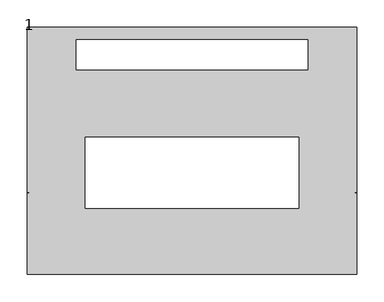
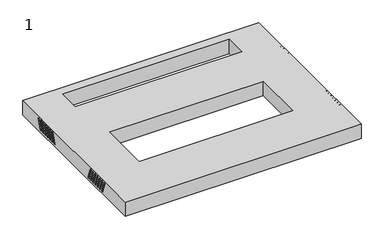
"""IFC4 building model written with IfcOpenShell, lengths in millimetres: proxy geometry, 1."""

from ifc_helpers import new_model, si_unit, frame, origin, place, context, project, spatial, polyline, circle_curve, source, transform, mapped, element, save
from ifc_brep_helpers import plane_surface, revolved_surface, advanced_brep


def proxy_1_dae487cf(model_context):
    return source(origin(), model_context, "Body", "AdvancedBrep", [
        advanced_brep(
        [(298.0, -135.8, 345.7479679), (298.0, -126.9074763, 321.3159597), (298.0, -123.1487058, 322.6840403), (298.0, -132.0412295, 347.1160484), (298.0, -125.8, 345.7479679), (298.0, -116.9074763, 321.3159597), (298.0, -113.1487058, 322.6840403), (298.0, -122.0412295, 347.1160484), (298.0, -115.8, 345.7479679), (298.0, -106.9074763, 321.3159597), (298.0, -103.1487058, 322.6840403), (298.0, -112.0412295, 347.1160484), (298.0, -105.8, 345.7479679), (298.0, -96.9074763, 321.3159597), (298.0, -93.1487058, 322.6840403), (298.0, -102.0412295, 347.1160484), (298.0, -95.8, 345.7479679), (298.0, -86.9074763, 321.3159597), (298.0, -83.1487058, 322.6840403), (298.0, -92.0412295, 347.1160484), (298.0, -85.8, 345.7479679), (298.0, -76.9074763, 321.3159597), (298.0, -73.1487058, 322.6840403), (298.0, -82.0412295, 347.1160484), (298.0, -75.8, 345.7479679), (298.0, -66.9074763, 321.3159597), (298.0, -63.1487058, 322.6840403), (298.0, -72.0412295, 347.1160484), (300.0, -132.0412295, 347.1160484), (300.0, -135.8, 345.7479679), (300.0, -123.1487058, 322.6840403), (300.0, -126.9074763, 321.3159597), (300.0, -122.0412295, 347.1160484), (300.0, -125.8, 345.7479679), (300.0, -113.1487058, 322.6840403), (300.0, -116.9074763, 321.3159597), (300.0, -112.0412295, 347.1160484), (300.0, -115.8, 345.7479679), (300.0, -103.1487058, 322.6840403), (300.0, -106.9074763, 321.3159597), (300.0, -102.0412295, 347.1160484), (300.0, -105.8, 345.7479679), (300.0, -93.1487058, 322.6840403), (300.0, -96.9074763, 321.3159597), (300.0, -92.0412295, 347.1160484), (300.0, -95.8, 345.7479679), (300.0, -83.1487058, 322.6840403), (300.0, -86.9074763, 321.3159597), (300.0, -82.0412295, 347.1160484), (300.0, -85.8, 345.7479679), (300.0, -73.1487058, 322.6840403), (300.0, -76.9074763, 321.3159597), (300.0, -72.0412295, 347.1160484), (300.0, -75.8, 345.7479679), (300.0, -63.1487058, 322.6840403), (300.0, -66.9074763, 321.3159597), (300.0, 225.0, 314.0), (300.0, -225.0, 314.0), (-300.0, -225.0, 314.0), (-300.0, 225.0, 314.0), (-211.0, 147.5, 314.0), (211.0, 147.5, 314.0), (211.0, 202.5, 314.0), (-211.0, 202.5, 314.0), (195.0, 25.0, 314.0), (-195.0, 25.0, 314.0), (-195.0, -105.0, 314.0), (195.0, -105.0, 314.0), (300.0, 225.0, 352.0), (-300.0, 225.0, 352.0), (-300.0, -225.0, 352.0), (300.0, -225.0, 352.0), (-211.0, 147.5, 352.0), (-211.0, 202.5, 352.0), (211.0, 202.5, 352.0), (211.0, 147.5, 352.0), (195.0, 25.0, 352.0), (195.0, -105.0, 352.0), (-195.0, -105.0, 352.0), (-195.0, 25.0, 352.0), (-300.0, -66.9074763, 321.3159597), (-300.0, -63.1487058, 322.6840403), (-300.0, -72.0412295, 347.1160484), (-300.0, -75.8, 345.7479679), (-300.0, -76.9074763, 321.3159597), (-300.0, -73.1487058, 322.6840403), (-300.0, -82.0412295, 347.1160484), (-300.0, -85.8, 345.7479679), (-300.0, -86.9074763, 321.3159597), (-300.0, -83.1487058, 322.6840403), (-300.0, -92.0412295, 347.1160484), (-300.0, -95.8, 345.7479679), (-300.0, -96.9074763, 321.3159597), (-300.0, -93.1487058, 322.6840403), (-300.0, -102.0412295, 347.1160484), (-300.0, -105.8, 345.7479679), (-300.0, -106.9074763, 321.3159597), (-300.0, -103.1487058, 322.6840403), (-300.0, -112.0412295, 347.1160484), (-300.0, -115.8, 345.7479679), (-300.0, -116.9074763, 321.3159597), (-300.0, -113.1487058, 322.6840403), (-300.0, -122.0412295, 347.1160484), (-300.0, -125.8, 345.7479679), (-300.0, -126.9074763, 321.3159597), (-300.0, -123.1487058, 322.6840403), (-300.0, -132.0412295, 347.1160484), (-300.0, -135.8, 345.7479679), (-300.0, 96.0, 345.7479679), (-300.0, 92.2412295, 347.1160484), (-300.0, 83.3487058, 322.6840403), (-300.0, 87.1074763, 321.3159597), (-300.0, 106.0, 345.7479679), (-300.0, 102.2412295, 347.1160484), (-300.0, 93.3487058, 322.6840403), (-300.0, 97.1074763, 321.3159597), (-300.0, 116.0, 345.7479679), (-300.0, 112.2412295, 347.1160484), (-300.0, 103.3487058, 322.6840403), (-300.0, 107.1074763, 321.3159597), (-300.0, 126.0, 345.7479679), (-300.0, 122.2412295, 347.1160484), (-300.0, 113.3487058, 322.6840403), (-300.0, 117.1074763, 321.3159597), (-300.0, 136.0, 345.7479679), (-300.0, 132.2412295, 347.1160484), (-300.0, 123.3487058, 322.6840403), (-300.0, 127.1074763, 321.3159597), (-300.0, 146.0, 345.7479679), (-300.0, 142.2412295, 347.1160484), (-300.0, 133.3487058, 322.6840403), (-300.0, 137.1074763, 321.3159597), (-300.0, 156.0, 345.7479679), (-300.0, 152.2412295, 347.1160484), (-300.0, 143.3487058, 322.6840403), (-300.0, 147.1074763, 321.3159597), (300.0, 152.2412295, 347.1160484), (300.0, 156.0, 345.7479679), (300.0, 147.1074763, 321.3159597), (300.0, 143.3487058, 322.6840403), (300.0, 142.2412295, 347.1160484), (300.0, 146.0, 345.7479679), (300.0, 137.1074763, 321.3159597), (300.0, 133.3487058, 322.6840403), (300.0, 132.2412295, 347.1160484), (300.0, 136.0, 345.7479679), (300.0, 127.1074763, 321.3159597), (300.0, 123.3487058, 322.6840403), (300.0, 122.2412295, 347.1160484), (300.0, 126.0, 345.7479679), (300.0, 117.1074763, 321.3159597), (300.0, 113.3487058, 322.6840403), (300.0, 112.2412295, 347.1160484), (300.0, 116.0, 345.7479679), (300.0, 107.1074763, 321.3159597), (300.0, 103.3487058, 322.6840403), (300.0, 102.2412295, 347.1160484), (300.0, 106.0, 345.7479679), (300.0, 97.1074763, 321.3159597), (300.0, 93.3487058, 322.6840403), (300.0, 92.2412295, 347.1160484), (300.0, 96.0, 345.7479679), (300.0, 87.1074763, 321.3159597), (300.0, 83.3487058, 322.6840403), (298.0, 156.0, 345.7479679), (298.0, 152.2412295, 347.1160484), (298.0, 143.3487058, 322.6840403), (298.0, 147.1074763, 321.3159597), (298.0, 146.0, 345.7479679), (298.0, 142.2412295, 347.1160484), (298.0, 133.3487058, 322.6840403), (298.0, 137.1074763, 321.3159597), (298.0, 136.0, 345.7479679), (298.0, 132.2412295, 347.1160484), (298.0, 123.3487058, 322.6840403), (298.0, 127.1074763, 321.3159597), (298.0, 126.0, 345.7479679), (298.0, 122.2412295, 347.1160484), (298.0, 113.3487058, 322.6840403), (298.0, 117.1074763, 321.3159597), (298.0, 116.0, 345.7479679), (298.0, 112.2412295, 347.1160484), (298.0, 103.3487058, 322.6840403), (298.0, 107.1074763, 321.3159597), (298.0, 106.0, 345.7479679), (298.0, 102.2412295, 347.1160484), (298.0, 93.3487058, 322.6840403), (298.0, 97.1074763, 321.3159597), (298.0, 96.0, 345.7479679), (298.0, 92.2412295, 347.1160484), (298.0, 83.3487058, 322.6840403), (298.0, 87.1074763, 321.3159597), (-298.0, -63.1487058, 322.6840403), (-298.0, -66.9074763, 321.3159597), (-298.0, -75.8, 345.7479679), (-298.0, -72.0412295, 347.1160484), (-298.0, -73.1487058, 322.6840403), (-298.0, -76.9074763, 321.3159597), (-298.0, -85.8, 345.7479679), (-298.0, -82.0412295, 347.1160484), (-298.0, -83.1487058, 322.6840403), (-298.0, -86.9074763, 321.3159597), (-298.0, -95.8, 345.7479679), (-298.0, -92.0412295, 347.1160484), (-298.0, -93.1487058, 322.6840403), (-298.0, -96.9074763, 321.3159597), (-298.0, -105.8, 345.7479679), (-298.0, -102.0412295, 347.1160484), (-298.0, -103.1487058, 322.6840403), (-298.0, -106.9074763, 321.3159597), (-298.0, -115.8, 345.7479679), (-298.0, -112.0412295, 347.1160484), (-298.0, -113.1487058, 322.6840403), (-298.0, -116.9074763, 321.3159597), (-298.0, -125.8, 345.7479679), (-298.0, -122.0412295, 347.1160484), (-298.0, -123.1487058, 322.6840403), (-298.0, -126.9074763, 321.3159597), (-298.0, -135.8, 345.7479679), (-298.0, -132.0412295, 347.1160484), (-298.0, 92.2412295, 347.1160484), (-298.0, 96.0, 345.7479679), (-298.0, 87.1074763, 321.3159597), (-298.0, 83.3487058, 322.6840403), (-298.0, 102.2412295, 347.1160484), (-298.0, 106.0, 345.7479679), (-298.0, 97.1074763, 321.3159597), (-298.0, 93.3487058, 322.6840403), (-298.0, 112.2412295, 347.1160484), (-298.0, 116.0, 345.7479679), (-298.0, 107.1074763, 321.3159597), (-298.0, 103.3487058, 322.6840403), (-298.0, 122.2412295, 347.1160484), (-298.0, 126.0, 345.7479679), (-298.0, 117.1074763, 321.3159597), (-298.0, 113.3487058, 322.6840403), (-298.0, 132.2412295, 347.1160484), (-298.0, 136.0, 345.7479679), (-298.0, 127.1074763, 321.3159597), (-298.0, 123.3487058, 322.6840403), (-298.0, 142.2412295, 347.1160484), (-298.0, 146.0, 345.7479679), (-298.0, 137.1074763, 321.3159597), (-298.0, 133.3487058, 322.6840403), (-298.0, 152.2412295, 347.1160484), (-298.0, 156.0, 345.7479679), (-298.0, 147.1074763, 321.3159597), (-298.0, 143.3487058, 322.6840403)],
        [
            (0, 1),
            (1, 2, circle_curve(frame((298.0, -125.028091, 322.0), z_axis=(1.0, 0.0, 0.0), x_axis=(0.0, -1.0, 0.0)), 2.0)),
            (2, 3),
            (3, 0, circle_curve(frame((298.0, -133.9206148, 346.4320081), z_axis=(1.0, 0.0, 0.0), x_axis=(0.0, -1.0, 0.0)), 2.0)),
            (4, 5),
            (5, 6, circle_curve(frame((298.0, -115.028091, 322.0), z_axis=(1.0, 0.0, 0.0), x_axis=(0.0, -1.0, 0.0)), 2.0)),
            (6, 7),
            (7, 4, circle_curve(frame((298.0, -123.9206148, 346.4320081), z_axis=(1.0, 0.0, 0.0), x_axis=(0.0, -1.0, 0.0)), 2.0)),
            (8, 9),
            (9, 10, circle_curve(frame((298.0, -105.028091, 322.0), z_axis=(1.0, 0.0, 0.0), x_axis=(0.0, -1.0, 0.0)), 2.0)),
            (10, 11),
            (11, 8, circle_curve(frame((298.0, -113.9206148, 346.4320081), z_axis=(1.0, 0.0, 0.0), x_axis=(0.0, -1.0, 0.0)), 2.0)),
            (12, 13),
            (13, 14, circle_curve(frame((298.0, -95.028091, 322.0), z_axis=(1.0, 0.0, 0.0), x_axis=(0.0, -1.0, 0.0)), 2.0)),
            (14, 15),
            (15, 12, circle_curve(frame((298.0, -103.9206148, 346.4320081), z_axis=(1.0, 0.0, 0.0), x_axis=(0.0, -1.0, 0.0)), 2.0)),
            (16, 17),
            (17, 18, circle_curve(frame((298.0, -85.028091, 322.0), z_axis=(1.0, 0.0, 0.0), x_axis=(0.0, -1.0, 0.0)), 2.0)),
            (18, 19),
            (19, 16, circle_curve(frame((298.0, -93.9206148, 346.4320081), z_axis=(1.0, 0.0, 0.0), x_axis=(0.0, -1.0, 0.0)), 2.0)),
            (20, 21),
            (21, 22, circle_curve(frame((298.0, -75.028091, 322.0), z_axis=(1.0, 0.0, 0.0), x_axis=(0.0, -1.0, 0.0)), 2.0)),
            (22, 23),
            (23, 20, circle_curve(frame((298.0, -83.9206148, 346.4320081), z_axis=(1.0, 0.0, 0.0), x_axis=(0.0, -1.0, 0.0)), 2.0)),
            (24, 25),
            (25, 26, circle_curve(frame((298.0, -65.028091, 322.0), z_axis=(1.0, 0.0, 0.0), x_axis=(0.0, -1.0, 0.0)), 2.0)),
            (26, 27),
            (27, 24, circle_curve(frame((298.0, -73.9206148, 346.4320081), z_axis=(1.0, 0.0, 0.0), x_axis=(0.0, -1.0, 0.0)), 2.0)),
            (3, 28),
            (28, 29, circle_curve(frame((300.0, -133.9206148, 346.4320081), z_axis=(1.0, 0.0, 0.0), x_axis=(0.0, -1.0, 0.0)), 2.0)),
            (29, 0),
            (2, 30),
            (30, 28),
            (1, 31),
            (31, 30, circle_curve(frame((300.0, -125.028091, 322.0), z_axis=(1.0, 0.0, 0.0), x_axis=(0.0, -1.0, 0.0)), 2.0)),
            (29, 31),
            (7, 32),
            (32, 33, circle_curve(frame((300.0, -123.9206148, 346.4320081), z_axis=(1.0, 0.0, 0.0), x_axis=(0.0, -1.0, 0.0)), 2.0)),
            (33, 4),
            (6, 34),
            (34, 32),
            (5, 35),
            (35, 34, circle_curve(frame((300.0, -115.028091, 322.0), z_axis=(1.0, 0.0, 0.0), x_axis=(0.0, -1.0, 0.0)), 2.0)),
            (33, 35),
            (11, 36),
            (36, 37, circle_curve(frame((300.0, -113.9206148, 346.4320081), z_axis=(1.0, 0.0, 0.0), x_axis=(0.0, -1.0, 0.0)), 2.0)),
            (37, 8),
            (10, 38),
            (38, 36),
            (9, 39),
            (39, 38, circle_curve(frame((300.0, -105.028091, 322.0), z_axis=(1.0, 0.0, 0.0), x_axis=(0.0, -1.0, 0.0)), 2.0)),
            (37, 39),
            (15, 40),
            (40, 41, circle_curve(frame((300.0, -103.9206148, 346.4320081), z_axis=(1.0, 0.0, 0.0), x_axis=(0.0, -1.0, 0.0)), 2.0)),
            (41, 12),
            (14, 42),
            (42, 40),
            (13, 43),
            (43, 42, circle_curve(frame((300.0, -95.028091, 322.0), z_axis=(1.0, 0.0, 0.0), x_axis=(0.0, -1.0, 0.0)), 2.0)),
            (41, 43),
            (19, 44),
            (44, 45, circle_curve(frame((300.0, -93.9206148, 346.4320081), z_axis=(1.0, 0.0, 0.0), x_axis=(0.0, -1.0, 0.0)), 2.0)),
            (45, 16),
            (18, 46),
            (46, 44),
            (17, 47),
            (47, 46, circle_curve(frame((300.0, -85.028091, 322.0), z_axis=(1.0, 0.0, 0.0), x_axis=(0.0, -1.0, 0.0)), 2.0)),
            (45, 47),
            (23, 48),
            (48, 49, circle_curve(frame((300.0, -83.9206148, 346.4320081), z_axis=(1.0, 0.0, 0.0), x_axis=(0.0, -1.0, 0.0)), 2.0)),
            (49, 20),
            (22, 50),
            (50, 48),
            (21, 51),
            (51, 50, circle_curve(frame((300.0, -75.028091, 322.0), z_axis=(1.0, 0.0, 0.0), x_axis=(0.0, -1.0, 0.0)), 2.0)),
            (49, 51),
            (27, 52),
            (52, 53, circle_curve(frame((300.0, -73.9206148, 346.4320081), z_axis=(1.0, 0.0, 0.0), x_axis=(0.0, -1.0, 0.0)), 2.0)),
            (53, 24),
            (26, 54),
            (54, 52),
            (25, 55),
            (55, 54, circle_curve(frame((300.0, -65.028091, 322.0), z_axis=(1.0, 0.0, 0.0), x_axis=(0.0, -1.0, 0.0)), 2.0)),
            (53, 55),
            (56, 57),
            (57, 58),
            (58, 59),
            (59, 56),
            (60, 61),
            (61, 62),
            (62, 63),
            (63, 60),
            (64, 65),
            (65, 66),
            (66, 67),
            (67, 64),
            (68, 69),
            (69, 70),
            (70, 71),
            (71, 68),
            (72, 73),
            (73, 74),
            (74, 75),
            (75, 72),
            (76, 77),
            (77, 78),
            (78, 79),
            (79, 76),
            (59, 69),
            (68, 56),
            (58, 70),
            (80, 81, circle_curve(frame((-300.0, -65.028091, 322.0), z_axis=(1.0, 0.0, 0.0), x_axis=(0.0, 1.0, 0.0)), 2.0)),
            (81, 82),
            (82, 83, circle_curve(frame((-300.0, -73.9206148, 346.4320081), z_axis=(1.0, 0.0, 0.0), x_axis=(0.0, 1.0, 0.0)), 2.0)),
            (83, 80),
            (84, 85, circle_curve(frame((-300.0, -75.028091, 322.0), z_axis=(1.0, 0.0, 0.0), x_axis=(0.0, 1.0, 0.0)), 2.0)),
            (85, 86),
            (86, 87, circle_curve(frame((-300.0, -83.9206148, 346.4320081), z_axis=(1.0, 0.0, 0.0), x_axis=(0.0, 1.0, 0.0)), 2.0)),
            (87, 84),
            (88, 89, circle_curve(frame((-300.0, -85.028091, 322.0), z_axis=(1.0, 0.0, 0.0), x_axis=(0.0, 1.0, 0.0)), 2.0)),
            (89, 90),
            (90, 91, circle_curve(frame((-300.0, -93.9206148, 346.4320081), z_axis=(1.0, 0.0, 0.0), x_axis=(0.0, 1.0, 0.0)), 2.0)),
            (91, 88),
            (92, 93, circle_curve(frame((-300.0, -95.028091, 322.0), z_axis=(1.0, 0.0, 0.0), x_axis=(0.0, 1.0, 0.0)), 2.0)),
            (93, 94),
            (94, 95, circle_curve(frame((-300.0, -103.9206148, 346.4320081), z_axis=(1.0, 0.0, 0.0), x_axis=(0.0, 1.0, 0.0)), 2.0)),
            (95, 92),
            (96, 97, circle_curve(frame((-300.0, -105.028091, 322.0), z_axis=(1.0, 0.0, 0.0), x_axis=(0.0, 1.0, 0.0)), 2.0)),
            (97, 98),
            (98, 99, circle_curve(frame((-300.0, -113.9206148, 346.4320081), z_axis=(1.0, 0.0, 0.0), x_axis=(0.0, 1.0, 0.0)), 2.0)),
            (99, 96),
            (100, 101, circle_curve(frame((-300.0, -115.028091, 322.0), z_axis=(1.0, 0.0, 0.0), x_axis=(0.0, 1.0, 0.0)), 2.0)),
            (101, 102),
            (102, 103, circle_curve(frame((-300.0, -123.9206148, 346.4320081), z_axis=(1.0, 0.0, 0.0), x_axis=(0.0, 1.0, 0.0)), 2.0)),
            (103, 100),
            (104, 105, circle_curve(frame((-300.0, -125.028091, 322.0), z_axis=(1.0, 0.0, 0.0), x_axis=(0.0, 1.0, 0.0)), 2.0)),
            (105, 106),
            (106, 107, circle_curve(frame((-300.0, -133.9206148, 346.4320081), z_axis=(1.0, 0.0, 0.0), x_axis=(0.0, 1.0, 0.0)), 2.0)),
            (107, 104),
            (108, 109, circle_curve(frame((-300.0, 94.1206148, 346.4320081), z_axis=(1.0, 0.0, 0.0), x_axis=(0.0, 1.0, 0.0)), 2.0)),
            (109, 110),
            (110, 111, circle_curve(frame((-300.0, 85.228091, 322.0), z_axis=(1.0, 0.0, 0.0), x_axis=(0.0, 1.0, 0.0)), 2.0)),
            (111, 108),
            (112, 113, circle_curve(frame((-300.0, 104.1206148, 346.4320081), z_axis=(1.0, 0.0, 0.0), x_axis=(0.0, 1.0, 0.0)), 2.0)),
            (113, 114),
            (114, 115, circle_curve(frame((-300.0, 95.228091, 322.0), z_axis=(1.0, 0.0, 0.0), x_axis=(0.0, 1.0, 0.0)), 2.0)),
            (115, 112),
            (116, 117, circle_curve(frame((-300.0, 114.1206148, 346.4320081), z_axis=(1.0, 0.0, 0.0), x_axis=(0.0, 1.0, 0.0)), 2.0)),
            (117, 118),
            (118, 119, circle_curve(frame((-300.0, 105.228091, 322.0), z_axis=(1.0, 0.0, 0.0), x_axis=(0.0, 1.0, 0.0)), 2.0)),
            (119, 116),
            (120, 121, circle_curve(frame((-300.0, 124.1206148, 346.4320081), z_axis=(1.0, 0.0, 0.0), x_axis=(0.0, 1.0, 0.0)), 2.0)),
            (121, 122),
            (122, 123, circle_curve(frame((-300.0, 115.228091, 322.0), z_axis=(1.0, 0.0, 0.0), x_axis=(0.0, 1.0, 0.0)), 2.0)),
            (123, 120),
            (124, 125, circle_curve(frame((-300.0, 134.1206148, 346.4320081), z_axis=(1.0, 0.0, 0.0), x_axis=(0.0, 1.0, 0.0)), 2.0)),
            (125, 126),
            (126, 127, circle_curve(frame((-300.0, 125.228091, 322.0), z_axis=(1.0, 0.0, 0.0), x_axis=(0.0, 1.0, 0.0)), 2.0)),
            (127, 124),
            (128, 129, circle_curve(frame((-300.0, 144.1206148, 346.4320081), z_axis=(1.0, 0.0, 0.0), x_axis=(0.0, 1.0, 0.0)), 2.0)),
            (129, 130),
            (130, 131, circle_curve(frame((-300.0, 135.228091, 322.0), z_axis=(1.0, 0.0, 0.0), x_axis=(0.0, 1.0, 0.0)), 2.0)),
            (131, 128),
            (132, 133, circle_curve(frame((-300.0, 154.1206148, 346.4320081), z_axis=(1.0, 0.0, 0.0), x_axis=(0.0, 1.0, 0.0)), 2.0)),
            (133, 134),
            (134, 135, circle_curve(frame((-300.0, 145.228091, 322.0), z_axis=(1.0, 0.0, 0.0), x_axis=(0.0, 1.0, 0.0)), 2.0)),
            (135, 132),
            (57, 71),
            (136, 137, circle_curve(frame((300.0, 154.1206148, 346.4320081), z_axis=(-1.0, 0.0, 0.0), x_axis=(0.0, 1.0, 0.0)), 2.0)),
            (137, 138),
            (138, 139, circle_curve(frame((300.0, 145.228091, 322.0), z_axis=(-1.0, 0.0, 0.0), x_axis=(0.0, 1.0, 0.0)), 2.0)),
            (139, 136),
            (140, 141, circle_curve(frame((300.0, 144.1206148, 346.4320081), z_axis=(-1.0, 0.0, 0.0), x_axis=(0.0, 1.0, 0.0)), 2.0)),
            (141, 142),
            (142, 143, circle_curve(frame((300.0, 135.228091, 322.0), z_axis=(-1.0, 0.0, 0.0), x_axis=(0.0, 1.0, 0.0)), 2.0)),
            (143, 140),
            (144, 145, circle_curve(frame((300.0, 134.1206148, 346.4320081), z_axis=(-1.0, 0.0, 0.0), x_axis=(0.0, 1.0, 0.0)), 2.0)),
            (145, 146),
            (146, 147, circle_curve(frame((300.0, 125.228091, 322.0), z_axis=(-1.0, 0.0, 0.0), x_axis=(0.0, 1.0, 0.0)), 2.0)),
            (147, 144),
            (148, 149, circle_curve(frame((300.0, 124.1206148, 346.4320081), z_axis=(-1.0, 0.0, 0.0), x_axis=(0.0, 1.0, 0.0)), 2.0)),
            (149, 150),
            (150, 151, circle_curve(frame((300.0, 115.228091, 322.0), z_axis=(-1.0, 0.0, 0.0), x_axis=(0.0, 1.0, 0.0)), 2.0)),
            (151, 148),
            (152, 153, circle_curve(frame((300.0, 114.1206148, 346.4320081), z_axis=(-1.0, 0.0, 0.0), x_axis=(0.0, 1.0, 0.0)), 2.0)),
            (153, 154),
            (154, 155, circle_curve(frame((300.0, 105.228091, 322.0), z_axis=(-1.0, 0.0, 0.0), x_axis=(0.0, 1.0, 0.0)), 2.0)),
            (155, 152),
            (156, 157, circle_curve(frame((300.0, 104.1206148, 346.4320081), z_axis=(-1.0, 0.0, 0.0), x_axis=(0.0, 1.0, 0.0)), 2.0)),
            (157, 158),
            (158, 159, circle_curve(frame((300.0, 95.228091, 322.0), z_axis=(-1.0, 0.0, 0.0), x_axis=(0.0, 1.0, 0.0)), 2.0)),
            (159, 156),
            (160, 161, circle_curve(frame((300.0, 94.1206148, 346.4320081), z_axis=(-1.0, 0.0, 0.0), x_axis=(0.0, 1.0, 0.0)), 2.0)),
            (161, 162),
            (162, 163, circle_curve(frame((300.0, 85.228091, 322.0), z_axis=(-1.0, 0.0, 0.0), x_axis=(0.0, 1.0, 0.0)), 2.0)),
            (163, 160),
            (63, 73),
            (72, 60),
            (62, 74),
            (61, 75),
            (67, 77),
            (76, 64),
            (66, 78),
            (65, 79),
            (164, 165, circle_curve(frame((298.0, 154.1206148, 346.4320081), z_axis=(1.0, 0.0, 0.0), x_axis=(0.0, 1.0, 0.0)), 2.0)),
            (165, 166),
            (166, 167, circle_curve(frame((298.0, 145.228091, 322.0), z_axis=(1.0, 0.0, 0.0), x_axis=(0.0, 1.0, 0.0)), 2.0)),
            (167, 164),
            (168, 169, circle_curve(frame((298.0, 144.1206148, 346.4320081), z_axis=(1.0, 0.0, 0.0), x_axis=(0.0, 1.0, 0.0)), 2.0)),
            (169, 170),
            (170, 171, circle_curve(frame((298.0, 135.228091, 322.0), z_axis=(1.0, 0.0, 0.0), x_axis=(0.0, 1.0, 0.0)), 2.0)),
            (171, 168),
            (172, 173, circle_curve(frame((298.0, 134.1206148, 346.4320081), z_axis=(1.0, 0.0, 0.0), x_axis=(0.0, 1.0, 0.0)), 2.0)),
            (173, 174),
            (174, 175, circle_curve(frame((298.0, 125.228091, 322.0), z_axis=(1.0, 0.0, 0.0), x_axis=(0.0, 1.0, 0.0)), 2.0)),
            (175, 172),
            (176, 177, circle_curve(frame((298.0, 124.1206148, 346.4320081), z_axis=(1.0, 0.0, 0.0), x_axis=(0.0, 1.0, 0.0)), 2.0)),
            (177, 178),
            (178, 179, circle_curve(frame((298.0, 115.228091, 322.0), z_axis=(1.0, 0.0, 0.0), x_axis=(0.0, 1.0, 0.0)), 2.0)),
            (179, 176),
            (180, 181, circle_curve(frame((298.0, 114.1206148, 346.4320081), z_axis=(1.0, 0.0, 0.0), x_axis=(0.0, 1.0, 0.0)), 2.0)),
            (181, 182),
            (182, 183, circle_curve(frame((298.0, 105.228091, 322.0), z_axis=(1.0, 0.0, 0.0), x_axis=(0.0, 1.0, 0.0)), 2.0)),
            (183, 180),
            (184, 185, circle_curve(frame((298.0, 104.1206148, 346.4320081), z_axis=(1.0, 0.0, 0.0), x_axis=(0.0, 1.0, 0.0)), 2.0)),
            (185, 186),
            (186, 187, circle_curve(frame((298.0, 95.228091, 322.0), z_axis=(1.0, 0.0, 0.0), x_axis=(0.0, 1.0, 0.0)), 2.0)),
            (187, 184),
            (188, 189, circle_curve(frame((298.0, 94.1206148, 346.4320081), z_axis=(1.0, 0.0, 0.0), x_axis=(0.0, 1.0, 0.0)), 2.0)),
            (189, 190),
            (190, 191, circle_curve(frame((298.0, 85.228091, 322.0), z_axis=(1.0, 0.0, 0.0), x_axis=(0.0, 1.0, 0.0)), 2.0)),
            (191, 188),
            (164, 137),
            (136, 165),
            (139, 166),
            (138, 167),
            (168, 141),
            (140, 169),
            (143, 170),
            (142, 171),
            (172, 145),
            (144, 173),
            (147, 174),
            (146, 175),
            (176, 149),
            (148, 177),
            (151, 178),
            (150, 179),
            (180, 153),
            (152, 181),
            (155, 182),
            (154, 183),
            (184, 157),
            (156, 185),
            (159, 186),
            (158, 187),
            (188, 161),
            (160, 189),
            (163, 190),
            (162, 191),
            (192, 193, circle_curve(frame((-298.0, -65.028091, 322.0), z_axis=(-1.0, 0.0, 0.0), x_axis=(0.0, 1.0, 0.0)), 2.0)),
            (193, 194),
            (194, 195, circle_curve(frame((-298.0, -73.9206148, 346.4320081), z_axis=(-1.0, 0.0, 0.0), x_axis=(0.0, 1.0, 0.0)), 2.0)),
            (195, 192),
            (196, 197, circle_curve(frame((-298.0, -75.028091, 322.0), z_axis=(-1.0, 0.0, 0.0), x_axis=(0.0, 1.0, 0.0)), 2.0)),
            (197, 198),
            (198, 199, circle_curve(frame((-298.0, -83.9206148, 346.4320081), z_axis=(-1.0, 0.0, 0.0), x_axis=(0.0, 1.0, 0.0)), 2.0)),
            (199, 196),
            (200, 201, circle_curve(frame((-298.0, -85.028091, 322.0), z_axis=(-1.0, 0.0, 0.0), x_axis=(0.0, 1.0, 0.0)), 2.0)),
            (201, 202),
            (202, 203, circle_curve(frame((-298.0, -93.9206148, 346.4320081), z_axis=(-1.0, 0.0, 0.0), x_axis=(0.0, 1.0, 0.0)), 2.0)),
            (203, 200),
            (204, 205, circle_curve(frame((-298.0, -95.028091, 322.0), z_axis=(-1.0, 0.0, 0.0), x_axis=(0.0, 1.0, 0.0)), 2.0)),
            (205, 206),
            (206, 207, circle_curve(frame((-298.0, -103.9206148, 346.4320081), z_axis=(-1.0, 0.0, 0.0), x_axis=(0.0, 1.0, 0.0)), 2.0)),
            (207, 204),
            (208, 209, circle_curve(frame((-298.0, -105.028091, 322.0), z_axis=(-1.0, 0.0, 0.0), x_axis=(0.0, 1.0, 0.0)), 2.0)),
            (209, 210),
            (210, 211, circle_curve(frame((-298.0, -113.9206148, 346.4320081), z_axis=(-1.0, 0.0, 0.0), x_axis=(0.0, 1.0, 0.0)), 2.0)),
            (211, 208),
            (212, 213, circle_curve(frame((-298.0, -115.028091, 322.0), z_axis=(-1.0, 0.0, 0.0), x_axis=(0.0, 1.0, 0.0)), 2.0)),
            (213, 214),
            (214, 215, circle_curve(frame((-298.0, -123.9206148, 346.4320081), z_axis=(-1.0, 0.0, 0.0), x_axis=(0.0, 1.0, 0.0)), 2.0)),
            (215, 212),
            (216, 217, circle_curve(frame((-298.0, -125.028091, 322.0), z_axis=(-1.0, 0.0, 0.0), x_axis=(0.0, 1.0, 0.0)), 2.0)),
            (217, 218),
            (218, 219, circle_curve(frame((-298.0, -133.9206148, 346.4320081), z_axis=(-1.0, 0.0, 0.0), x_axis=(0.0, 1.0, 0.0)), 2.0)),
            (219, 216),
            (192, 81),
            (80, 193),
            (83, 194),
            (82, 195),
            (196, 85),
            (84, 197),
            (87, 198),
            (86, 199),
            (200, 89),
            (88, 201),
            (91, 202),
            (90, 203),
            (204, 93),
            (92, 205),
            (95, 206),
            (94, 207),
            (208, 97),
            (96, 209),
            (99, 210),
            (98, 211),
            (212, 101),
            (100, 213),
            (103, 214),
            (102, 215),
            (216, 105),
            (104, 217),
            (107, 218),
            (106, 219),
            (220, 221, circle_curve(frame((-298.0, 94.1206148, 346.4320081), z_axis=(-1.0, 0.0, 0.0), x_axis=(0.0, 1.0, 0.0)), 2.0)),
            (221, 222),
            (222, 223, circle_curve(frame((-298.0, 85.228091, 322.0), z_axis=(-1.0, 0.0, 0.0), x_axis=(0.0, 1.0, 0.0)), 2.0)),
            (223, 220),
            (224, 225, circle_curve(frame((-298.0, 104.1206148, 346.4320081), z_axis=(-1.0, 0.0, 0.0), x_axis=(0.0, 1.0, 0.0)), 2.0)),
            (225, 226),
            (226, 227, circle_curve(frame((-298.0, 95.228091, 322.0), z_axis=(-1.0, 0.0, 0.0), x_axis=(0.0, 1.0, 0.0)), 2.0)),
            (227, 224),
            (228, 229, circle_curve(frame((-298.0, 114.1206148, 346.4320081), z_axis=(-1.0, 0.0, 0.0), x_axis=(0.0, 1.0, 0.0)), 2.0)),
            (229, 230),
            (230, 231, circle_curve(frame((-298.0, 105.228091, 322.0), z_axis=(-1.0, 0.0, 0.0), x_axis=(0.0, 1.0, 0.0)), 2.0)),
            (231, 228),
            (232, 233, circle_curve(frame((-298.0, 124.1206148, 346.4320081), z_axis=(-1.0, 0.0, 0.0), x_axis=(0.0, 1.0, 0.0)), 2.0)),
            (233, 234),
            (234, 235, circle_curve(frame((-298.0, 115.228091, 322.0), z_axis=(-1.0, 0.0, 0.0), x_axis=(0.0, 1.0, 0.0)), 2.0)),
            (235, 232),
            (236, 237, circle_curve(frame((-298.0, 134.1206148, 346.4320081), z_axis=(-1.0, 0.0, 0.0), x_axis=(0.0, 1.0, 0.0)), 2.0)),
            (237, 238),
            (238, 239, circle_curve(frame((-298.0, 125.228091, 322.0), z_axis=(-1.0, 0.0, 0.0), x_axis=(0.0, 1.0, 0.0)), 2.0)),
            (239, 236),
            (240, 241, circle_curve(frame((-298.0, 144.1206148, 346.4320081), z_axis=(-1.0, 0.0, 0.0), x_axis=(0.0, 1.0, 0.0)), 2.0)),
            (241, 242),
            (242, 243, circle_curve(frame((-298.0, 135.228091, 322.0), z_axis=(-1.0, 0.0, 0.0), x_axis=(0.0, 1.0, 0.0)), 2.0)),
            (243, 240),
            (244, 245, circle_curve(frame((-298.0, 154.1206148, 346.4320081), z_axis=(-1.0, 0.0, 0.0), x_axis=(0.0, 1.0, 0.0)), 2.0)),
            (245, 246),
            (246, 247, circle_curve(frame((-298.0, 145.228091, 322.0), z_axis=(-1.0, 0.0, 0.0), x_axis=(0.0, 1.0, 0.0)), 2.0)),
            (247, 244),
            (220, 109),
            (108, 221),
            (111, 222),
            (110, 223),
            (224, 113),
            (112, 225),
            (115, 226),
            (114, 227),
            (228, 117),
            (116, 229),
            (119, 230),
            (118, 231),
            (232, 121),
            (120, 233),
            (123, 234),
            (122, 235),
            (236, 125),
            (124, 237),
            (127, 238),
            (126, 239),
            (240, 129),
            (128, 241),
            (131, 242),
            (130, 243),
            (244, 133),
            (132, 245),
            (135, 246),
            (134, 247),
        ],
        [
            plane_surface(frame((298.0, -126.9074763, 321.3159597), z_axis=(1.0, 0.0, 0.0), x_axis=(0.0, -0.34202014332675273, 0.9396926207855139))),
            revolved_surface(polyline([(300.0, -135.9206148, 346.4320081), (298.0, -135.9206148, 346.4320081)]), (298.0, -133.9206148, 346.4320081), (1.0, 0.0, 0.0)),
            plane_surface(frame((300.0, -123.1487058, 322.6840403), z_axis=(0.0, -0.9396926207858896, -0.34202014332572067), x_axis=(-1.0, 0.0, 0.0))),
            revolved_surface(polyline([(300.0, -127.028091, 322.0), (298.0, -127.028091, 322.0)]), (298.0, -125.028091, 322.0), (1.0, 0.0, 0.0)),
            plane_surface(frame((300.0, -135.8, 345.7479679), z_axis=(0.0, 0.9396926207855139, 0.34202014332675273), x_axis=(-1.0, 0.0, 0.0))),
            revolved_surface(polyline([(300.0, -125.9206148, 346.4320081), (298.0, -125.9206148, 346.4320081)]), (300.0, -123.9206148, 346.4320081), (1.0, 0.0, 0.0)),
            plane_surface(frame((300.0, -113.1487058, 322.6840403), z_axis=(0.0, -0.9396926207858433, -0.34202014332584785), x_axis=(-1.0, 0.0, 0.0))),
            revolved_surface(polyline([(300.0, -117.028091, 322.0), (298.0, -117.028091, 322.0)]), (300.0, -115.028091, 322.0), (1.0, 0.0, 0.0)),
            plane_surface(frame((300.0, -125.8, 345.7479679), z_axis=(0.0, 0.9396926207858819, 0.34202014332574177), x_axis=(-1.0, 0.0, 0.0))),
            revolved_surface(polyline([(300.0, -115.9206148, 346.4320081), (298.0, -115.9206148, 346.4320081)]), (300.0, -113.9206148, 346.4320081), (1.0, 0.0, 0.0)),
            plane_surface(frame((300.0, -103.1487058, 322.6840403), z_axis=(0.0, -0.9396926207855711, -0.3420201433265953), x_axis=(-1.0, 0.0, 0.0))),
            revolved_surface(polyline([(300.0, -107.028091, 322.0), (298.0, -107.028091, 322.0)]), (300.0, -105.028091, 322.0), (1.0, 0.0, 0.0)),
            plane_surface(frame((300.0, -115.8, 345.7479679), z_axis=(0.0, 0.9396926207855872, 0.34202014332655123), x_axis=(-1.0, 0.0, 0.0))),
            revolved_surface(polyline([(300.0, -105.9206148, 346.4320081), (298.0, -105.9206148, 346.4320081)]), (300.0, -103.9206148, 346.4320081), (1.0, 0.0, 0.0)),
            plane_surface(frame((300.0, -93.1487058, 322.6840403), z_axis=(0.0, -0.939692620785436, -0.3420201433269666), x_axis=(-1.0, 0.0, 0.0))),
            revolved_surface(polyline([(300.0, -97.028091, 322.0), (298.0, -97.028091, 322.0)]), (300.0, -95.028091, 322.0), (1.0, 0.0, 0.0)),
            plane_surface(frame((300.0, -105.8, 345.7479679), z_axis=(0.0, 0.9396926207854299, 0.34202014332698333), x_axis=(-1.0, 0.0, 0.0))),
            revolved_surface(polyline([(300.0, -95.9206148, 346.4320081), (298.0, -95.9206148, 346.4320081)]), (300.0, -93.9206148, 346.4320081), (1.0, 0.0, 0.0)),
            plane_surface(frame((300.0, -83.1487058, 322.6840403), z_axis=(0.0, -0.9396926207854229, -0.3420201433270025), x_axis=(-1.0, 0.0, 0.0))),
            revolved_surface(polyline([(300.0, -87.028091, 322.0), (298.0, -87.028091, 322.0)]), (300.0, -85.028091, 322.0), (1.0, 0.0, 0.0)),
            plane_surface(frame((300.0, -95.8, 345.7479679), z_axis=(0.0, 0.9396926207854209, 0.34202014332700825), x_axis=(-1.0, 0.0, 0.0))),
            revolved_surface(polyline([(300.0, -85.9206148, 346.4320081), (298.0, -85.9206148, 346.4320081)]), (300.0, -83.9206148, 346.4320081), (1.0, 0.0, 0.0)),
            plane_surface(frame((300.0, -73.1487058, 322.6840403), z_axis=(0.0, -0.9396926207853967, -0.34202014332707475), x_axis=(-1.0, 0.0, 0.0))),
            revolved_surface(polyline([(300.0, -77.028091, 322.0), (298.0, -77.028091, 322.0)]), (300.0, -75.028091, 322.0), (1.0, 0.0, 0.0)),
            plane_surface(frame((300.0, -85.8, 345.7479679), z_axis=(0.0, 0.9396926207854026, 0.3420201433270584), x_axis=(-1.0, 0.0, 0.0))),
            revolved_surface(polyline([(300.0, -75.9206148, 346.4320081), (298.0, -75.9206148, 346.4320081)]), (300.0, -73.9206148, 346.4320081), (1.0, 0.0, 0.0)),
            plane_surface(frame((300.0, -63.1487058, 322.6840403), z_axis=(0.0, -0.9396926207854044, -0.3420201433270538), x_axis=(-1.0, 0.0, 0.0))),
            revolved_surface(polyline([(300.0, -67.028091, 322.0), (298.0, -67.028091, 322.0)]), (300.0, -65.028091, 322.0), (1.0, 0.0, 0.0)),
            plane_surface(frame((300.0, -75.8, 345.7479679), z_axis=(0.0, 0.9396926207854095, 0.34202014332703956), x_axis=(-1.0, 0.0, 0.0))),
            plane_surface(frame((-300.0, 225.0, 314.0), z_axis=(0.0, 0.0, -1.0), x_axis=(1.0, 0.0, 0.0))),
            plane_surface(frame((-300.0, 225.0, 352.0), z_axis=(0.0, 0.0, 1.0), x_axis=(-1.0, 0.0, 0.0))),
            plane_surface(frame((300.0, 225.0, 352.0), z_axis=(0.0, 1.0, 0.0), x_axis=(0.0, 0.0, -1.0))),
            plane_surface(frame((-300.0, 225.0, 352.0), z_axis=(-1.0, 0.0, 0.0), x_axis=(0.0, 0.0, -1.0))),
            plane_surface(frame((-300.0, -225.0, 352.0), z_axis=(0.0, -1.0, 0.0), x_axis=(0.0, 0.0, -1.0))),
            plane_surface(frame((300.0, -225.0, 352.0), z_axis=(1.0, 0.0, 0.0), x_axis=(0.0, 0.0, -1.0))),
            plane_surface(frame((-211.0, 147.5, 352.0), z_axis=(1.0, 0.0, 0.0), x_axis=(0.0, 0.0, -1.0))),
            plane_surface(frame((-211.0, 202.5, 352.0), z_axis=(0.0, -1.0, 0.0), x_axis=(0.0, 0.0, -1.0))),
            plane_surface(frame((211.0, 202.5, 352.0), z_axis=(-1.0, 0.0, 0.0), x_axis=(0.0, 0.0, -1.0))),
            plane_surface(frame((211.0, 147.5, 352.0), z_axis=(0.0, 1.0, 0.0), x_axis=(0.0, 0.0, -1.0))),
            plane_surface(frame((195.0, 25.0, 352.0), z_axis=(-1.0, 0.0, 0.0), x_axis=(0.0, 0.0, -1.0))),
            plane_surface(frame((195.0, -105.0, 352.0), z_axis=(0.0, 1.0, 0.0), x_axis=(0.0, 0.0, -1.0))),
            plane_surface(frame((-195.0, -105.0, 352.0), z_axis=(1.0, 0.0, 0.0), x_axis=(0.0, 0.0, -1.0))),
            plane_surface(frame((-195.0, 25.0, 352.0), z_axis=(0.0, -1.0, 0.0), x_axis=(0.0, 0.0, -1.0))),
            plane_surface(frame((298.0, 156.1206148, 346.4320081), z_axis=(1.0, 0.0, 0.0), x_axis=(0.0, 0.0, -1.0))),
            revolved_surface(polyline([(300.0, 156.1206148, 346.4320081), (298.0, 156.1206148, 346.4320081)]), (298.0, 154.1206148, 346.4320081), (1.0, 0.0, 0.0)),
            plane_surface(frame((300.0, 152.2412295, 347.1160484), z_axis=(0.0, 0.9396926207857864, -0.34202014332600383), x_axis=(-1.0, 0.0, 0.0))),
            revolved_surface(polyline([(300.0, 147.228091, 322.0), (298.0, 147.228091, 322.0)]), (298.0, 145.228091, 322.0), (1.0, 0.0, 0.0)),
            plane_surface(frame((300.0, 147.1074763, 321.3159597), z_axis=(0.0, -0.9396926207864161, 0.3420201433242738), x_axis=(-1.0, 0.0, 0.0))),
            revolved_surface(polyline([(300.0, 146.1206148, 346.4320081), (298.0, 146.1206148, 346.4320081)]), (300.0, 144.1206148, 346.4320081), (1.0, 0.0, 0.0)),
            plane_surface(frame((300.0, 142.2412295, 347.1160484), z_axis=(0.0, 0.9396926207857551, -0.3420201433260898), x_axis=(-1.0, 0.0, 0.0))),
            revolved_surface(polyline([(300.0, 137.228091, 322.0), (298.0, 137.228091, 322.0)]), (300.0, 135.228091, 322.0), (1.0, 0.0, 0.0)),
            plane_surface(frame((300.0, 137.1074763, 321.3159597), z_axis=(0.0, -0.9396926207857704, 0.34202014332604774), x_axis=(-1.0, 0.0, 0.0))),
            revolved_surface(polyline([(300.0, 136.1206148, 346.4320081), (298.0, 136.1206148, 346.4320081)]), (300.0, 134.1206148, 346.4320081), (1.0, 0.0, 0.0)),
            plane_surface(frame((300.0, 132.2412295, 347.1160484), z_axis=(0.0, 0.9396926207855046, -0.34202014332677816), x_axis=(-1.0, 0.0, 0.0))),
            revolved_surface(polyline([(300.0, 127.228091, 322.0), (298.0, 127.228091, 322.0)]), (300.0, 125.228091, 322.0), (1.0, 0.0, 0.0)),
            plane_surface(frame((300.0, 127.1074763, 321.3159597), z_axis=(0.0, -0.939692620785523, 0.3420201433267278), x_axis=(-1.0, 0.0, 0.0))),
            revolved_surface(polyline([(300.0, 126.1206148, 346.4320081), (298.0, 126.1206148, 346.4320081)]), (300.0, 124.1206148, 346.4320081), (1.0, 0.0, 0.0)),
            plane_surface(frame((300.0, 122.2412295, 347.1160484), z_axis=(0.0, 0.9396926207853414, -0.3420201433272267), x_axis=(-1.0, 0.0, 0.0))),
            revolved_surface(polyline([(300.0, 117.228091, 322.0), (298.0, 117.228091, 322.0)]), (300.0, 115.228091, 322.0), (1.0, 0.0, 0.0)),
            plane_surface(frame((300.0, 117.1074763, 321.3159597), z_axis=(0.0, -0.9396926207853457, 0.3420201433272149), x_axis=(-1.0, 0.0, 0.0))),
            revolved_surface(polyline([(300.0, 116.1206148, 346.4320081), (298.0, 116.1206148, 346.4320081)]), (300.0, 114.1206148, 346.4320081), (1.0, 0.0, 0.0)),
            plane_surface(frame((300.0, 112.2412295, 347.1160484), z_axis=(0.0, 0.9396926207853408, -0.34202014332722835), x_axis=(-1.0, 0.0, 0.0))),
            revolved_surface(polyline([(300.0, 107.228091, 322.0), (298.0, 107.228091, 322.0)]), (300.0, 105.228091, 322.0), (1.0, 0.0, 0.0)),
            plane_surface(frame((300.0, 107.1074763, 321.3159597), z_axis=(0.0, -0.9396926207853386, 0.34202014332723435), x_axis=(-1.0, 0.0, 0.0))),
            revolved_surface(polyline([(300.0, 106.1206148, 346.4320081), (298.0, 106.1206148, 346.4320081)]), (300.0, 104.1206148, 346.4320081), (1.0, 0.0, 0.0)),
            plane_surface(frame((300.0, 102.2412295, 347.1160484), z_axis=(0.0, 0.9396926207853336, -0.3420201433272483), x_axis=(-1.0, 0.0, 0.0))),
            revolved_surface(polyline([(300.0, 97.228091, 322.0), (298.0, 97.228091, 322.0)]), (300.0, 95.228091, 322.0), (1.0, 0.0, 0.0)),
            plane_surface(frame((300.0, 97.1074763, 321.3159597), z_axis=(0.0, -0.9396926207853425, 0.3420201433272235), x_axis=(-1.0, 0.0, 0.0))),
            revolved_surface(polyline([(300.0, 96.1206148, 346.4320081), (298.0, 96.1206148, 346.4320081)]), (300.0, 94.1206148, 346.4320081), (1.0, 0.0, 0.0)),
            plane_surface(frame((300.0, 92.2412295, 347.1160484), z_axis=(0.0, 0.9396926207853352, -0.34202014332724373), x_axis=(-1.0, 0.0, 0.0))),
            revolved_surface(polyline([(300.0, 87.228091, 322.0), (298.0, 87.228091, 322.0)]), (300.0, 85.228091, 322.0), (1.0, 0.0, 0.0)),
            plane_surface(frame((300.0, 87.1074763, 321.3159597), z_axis=(0.0, -0.9396926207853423, 0.3420201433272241), x_axis=(-1.0, 0.0, 0.0))),
            plane_surface(frame((-298.0, -72.0412295, 347.1160484), z_axis=(-1.0, 0.0, 0.0), x_axis=(0.0, -0.34202014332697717, 0.9396926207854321))),
            revolved_surface(polyline([(-298.0, -63.028091, 322.0), (-300.0, -63.028091, 322.0)]), (-300.0, -65.028091, 322.0), (1.0, 0.0, 0.0)),
            plane_surface(frame((-298.0, -75.8, 345.7479679), z_axis=(0.0, 0.9396926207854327, 0.3420201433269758), x_axis=(-1.0, 0.0, 0.0))),
            revolved_surface(polyline([(-298.0, -71.9206148, 346.4320081), (-300.0, -71.9206148, 346.4320081)]), (-300.0, -73.9206148, 346.4320081), (1.0, 0.0, 0.0)),
            plane_surface(frame((-298.0, -63.1487058, 322.6840403), z_axis=(0.0, -0.9396926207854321, -0.34202014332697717), x_axis=(-1.0, 0.0, 0.0))),
            revolved_surface(polyline([(-298.0, -73.028091, 322.0), (-300.0, -73.028091, 322.0)]), (-300.0, -75.028091, 322.0), (1.0, 0.0, 0.0)),
            plane_surface(frame((-298.0, -85.8, 345.7479679), z_axis=(0.0, 0.9396926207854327, 0.34202014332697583), x_axis=(-1.0, 0.0, 0.0))),
            revolved_surface(polyline([(-298.0, -81.9206148, 346.4320081), (-300.0, -81.9206148, 346.4320081)]), (-300.0, -83.9206148, 346.4320081), (1.0, 0.0, 0.0)),
            plane_surface(frame((-298.0, -73.1487058, 322.6840403), z_axis=(0.0, -0.9396926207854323, -0.34202014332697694), x_axis=(-1.0, 0.0, 0.0))),
            revolved_surface(polyline([(-298.0, -83.028091, 322.0), (-300.0, -83.028091, 322.0)]), (-300.0, -85.028091, 322.0), (1.0, 0.0, 0.0)),
            plane_surface(frame((-298.0, -95.8, 345.7479679), z_axis=(0.0, 0.9396926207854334, 0.34202014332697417), x_axis=(-1.0, 0.0, 0.0))),
            revolved_surface(polyline([(-298.0, -91.9206148, 346.4320081), (-300.0, -91.9206148, 346.4320081)]), (-300.0, -93.9206148, 346.4320081), (1.0, 0.0, 0.0)),
            plane_surface(frame((-298.0, -83.1487058, 322.6840403), z_axis=(0.0, -0.9396926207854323, -0.342020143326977), x_axis=(-1.0, 0.0, 0.0))),
            revolved_surface(polyline([(-298.0, -93.028091, 322.0), (-300.0, -93.028091, 322.0)]), (-300.0, -95.028091, 322.0), (1.0, 0.0, 0.0)),
            plane_surface(frame((-298.0, -105.8, 345.7479679), z_axis=(0.0, 0.9396926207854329, 0.3420201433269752), x_axis=(-1.0, 0.0, 0.0))),
            revolved_surface(polyline([(-298.0, -101.9206148, 346.4320081), (-300.0, -101.9206148, 346.4320081)]), (-300.0, -103.9206148, 346.4320081), (1.0, 0.0, 0.0)),
            plane_surface(frame((-298.0, -93.1487058, 322.6840403), z_axis=(0.0, -0.9396926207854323, -0.34202014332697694), x_axis=(-1.0, 0.0, 0.0))),
            revolved_surface(polyline([(-298.0, -103.028091, 322.0), (-300.0, -103.028091, 322.0)]), (-300.0, -105.028091, 322.0), (1.0, 0.0, 0.0)),
            plane_surface(frame((-298.0, -115.8, 345.7479679), z_axis=(0.0, 0.9396926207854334, 0.3420201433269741), x_axis=(-1.0, 0.0, 0.0))),
            revolved_surface(polyline([(-298.0, -111.9206148, 346.4320081), (-300.0, -111.9206148, 346.4320081)]), (-300.0, -113.9206148, 346.4320081), (1.0, 0.0, 0.0)),
            plane_surface(frame((-298.0, -103.1487058, 322.6840403), z_axis=(0.0, -0.9396926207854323, -0.34202014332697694), x_axis=(-1.0, 0.0, 0.0))),
            revolved_surface(polyline([(-298.0, -113.028091, 322.0), (-300.0, -113.028091, 322.0)]), (-300.0, -115.028091, 322.0), (1.0, 0.0, 0.0)),
            plane_surface(frame((-298.0, -125.8, 345.7479679), z_axis=(0.0, 0.9396926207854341, 0.34202014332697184), x_axis=(-1.0, 0.0, 0.0))),
            revolved_surface(polyline([(-298.0, -121.9206148, 346.4320081), (-300.0, -121.9206148, 346.4320081)]), (-300.0, -123.9206148, 346.4320081), (1.0, 0.0, 0.0)),
            plane_surface(frame((-298.0, -113.1487058, 322.6840403), z_axis=(0.0, -0.9396926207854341, -0.3420201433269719), x_axis=(-1.0, 0.0, 0.0))),
            revolved_surface(polyline([(-298.0, -123.028091, 322.0), (-300.0, -123.028091, 322.0)]), (-300.0, -125.028091, 322.0), (1.0, 0.0, 0.0)),
            plane_surface(frame((-298.0, -135.8, 345.7479679), z_axis=(0.0, 0.9396926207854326, 0.342020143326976), x_axis=(-1.0, 0.0, 0.0))),
            revolved_surface(polyline([(-298.0, -131.9206148, 346.4320081), (-300.0, -131.9206148, 346.4320081)]), (-300.0, -133.9206148, 346.4320081), (1.0, 0.0, 0.0)),
            plane_surface(frame((-298.0, -123.1487058, 322.6840403), z_axis=(0.0, -0.9396926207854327, -0.34202014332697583), x_axis=(-1.0, 0.0, 0.0))),
            plane_surface(frame((-298.0, 83.3487058, 322.6840403), z_axis=(-1.0, 0.0, 0.0), x_axis=(0.0, -0.34202014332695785, -0.9396926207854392))),
            revolved_surface(polyline([(-298.0, 96.1206148, 346.4320081), (-300.0, 96.1206148, 346.4320081)]), (-300.0, 94.1206148, 346.4320081), (1.0, 0.0, 0.0)),
            plane_surface(frame((-298.0, 87.1074763, 321.3159597), z_axis=(0.0, -0.9396926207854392, 0.34202014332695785), x_axis=(-1.0, 0.0, 0.0))),
            revolved_surface(polyline([(-298.0, 87.228091, 322.0), (-300.0, 87.228091, 322.0)]), (-300.0, 85.228091, 322.0), (1.0, 0.0, 0.0)),
            plane_surface(frame((-298.0, 92.2412295, 347.1160484), z_axis=(0.0, 0.9396926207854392, -0.34202014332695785), x_axis=(-1.0, 0.0, 0.0))),
            revolved_surface(polyline([(-298.0, 106.1206148, 346.4320081), (-300.0, 106.1206148, 346.4320081)]), (-300.0, 104.1206148, 346.4320081), (1.0, 0.0, 0.0)),
            plane_surface(frame((-298.0, 97.1074763, 321.3159597), z_axis=(0.0, -0.9396926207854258, 0.34202014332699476), x_axis=(-1.0, 0.0, 0.0))),
            revolved_surface(polyline([(-298.0, 97.228091, 322.0), (-300.0, 97.228091, 322.0)]), (-300.0, 95.228091, 322.0), (1.0, 0.0, 0.0)),
            plane_surface(frame((-298.0, 102.2412295, 347.1160484), z_axis=(0.0, 0.9396926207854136, -0.3420201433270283), x_axis=(-1.0, 0.0, 0.0))),
            revolved_surface(polyline([(-298.0, 116.1206148, 346.4320081), (-300.0, 116.1206148, 346.4320081)]), (-300.0, 114.1206148, 346.4320081), (1.0, 0.0, 0.0)),
            plane_surface(frame((-298.0, 107.1074763, 321.3159597), z_axis=(0.0, -0.9396926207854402, 0.342020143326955), x_axis=(-1.0, 0.0, 0.0))),
            revolved_surface(polyline([(-298.0, 107.228091, 322.0), (-300.0, 107.228091, 322.0)]), (-300.0, 105.228091, 322.0), (1.0, 0.0, 0.0)),
            plane_surface(frame((-298.0, 112.2412295, 347.1160484), z_axis=(0.0, 0.9396926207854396, -0.3420201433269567), x_axis=(-1.0, 0.0, 0.0))),
            revolved_surface(polyline([(-298.0, 126.1206148, 346.4320081), (-300.0, 126.1206148, 346.4320081)]), (-300.0, 124.1206148, 346.4320081), (1.0, 0.0, 0.0)),
            plane_surface(frame((-298.0, 117.1074763, 321.3159597), z_axis=(0.0, -0.9396926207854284, 0.34202014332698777), x_axis=(-1.0, 0.0, 0.0))),
            revolved_surface(polyline([(-298.0, 117.228091, 322.0), (-300.0, 117.228091, 322.0)]), (-300.0, 115.228091, 322.0), (1.0, 0.0, 0.0)),
            plane_surface(frame((-298.0, 122.2412295, 347.1160484), z_axis=(0.0, 0.9396926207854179, -0.34202014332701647), x_axis=(-1.0, 0.0, 0.0))),
            revolved_surface(polyline([(-298.0, 136.1206148, 346.4320081), (-300.0, 136.1206148, 346.4320081)]), (-300.0, 134.1206148, 346.4320081), (1.0, 0.0, 0.0)),
            plane_surface(frame((-298.0, 127.1074763, 321.3159597), z_axis=(0.0, -0.9396926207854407, 0.34202014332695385), x_axis=(-1.0, 0.0, 0.0))),
            revolved_surface(polyline([(-298.0, 127.228091, 322.0), (-300.0, 127.228091, 322.0)]), (-300.0, 125.228091, 322.0), (1.0, 0.0, 0.0)),
            plane_surface(frame((-298.0, 132.2412295, 347.1160484), z_axis=(0.0, 0.9396926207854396, -0.3420201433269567), x_axis=(-1.0, 0.0, 0.0))),
            revolved_surface(polyline([(-298.0, 146.1206148, 346.4320081), (-300.0, 146.1206148, 346.4320081)]), (-300.0, 144.1206148, 346.4320081), (1.0, 0.0, 0.0)),
            plane_surface(frame((-298.0, 137.1074763, 321.3159597), z_axis=(0.0, -0.9396926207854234, 0.34202014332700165), x_axis=(-1.0, 0.0, 0.0))),
            revolved_surface(polyline([(-298.0, 137.228091, 322.0), (-300.0, 137.228091, 322.0)]), (-300.0, 135.228091, 322.0), (1.0, 0.0, 0.0)),
            plane_surface(frame((-298.0, 142.2412295, 347.1160484), z_axis=(0.0, 0.9396926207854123, -0.34202014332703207), x_axis=(-1.0, 0.0, 0.0))),
            revolved_surface(polyline([(-298.0, 156.1206148, 346.4320081), (-300.0, 156.1206148, 346.4320081)]), (-300.0, 154.1206148, 346.4320081), (1.0, 0.0, 0.0)),
            plane_surface(frame((-298.0, 147.1074763, 321.3159597), z_axis=(0.0, -0.9396926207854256, 0.34202014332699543), x_axis=(-1.0, 0.0, 0.0))),
            revolved_surface(polyline([(-298.0, 147.228091, 322.0), (-300.0, 147.228091, 322.0)]), (-300.0, 145.228091, 322.0), (1.0, 0.0, 0.0)),
            plane_surface(frame((-298.0, 152.2412295, 347.1160484), z_axis=(0.0, 0.9396926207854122, -0.3420201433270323), x_axis=(-1.0, 0.0, 0.0))),
        ],
        [
            (0, [[1, 2, 3, 4]]),
            (0, [[5, 6, 7, 8]]),
            (0, [[9, 10, 11, 12]]),
            (0, [[13, 14, 15, 16]]),
            (0, [[17, 18, 19, 20]]),
            (0, [[21, 22, 23, 24]]),
            (0, [[25, 26, 27, 28]]),
            (1, [[-4, 29, 30, 31]]),
            (2, [[-3, 32, 33, -29]]),
            (3, [[-2, 34, 35, -32]]),
            (4, [[-1, -31, 36, -34]]),
            (5, [[-8, 37, 38, 39]]),
            (6, [[-7, 40, 41, -37]]),
            (7, [[-6, 42, 43, -40]]),
            (8, [[-5, -39, 44, -42]]),
            (9, [[-12, 45, 46, 47]]),
            (10, [[-11, 48, 49, -45]]),
            (11, [[-10, 50, 51, -48]]),
            (12, [[-9, -47, 52, -50]]),
            (13, [[-16, 53, 54, 55]]),
            (14, [[-15, 56, 57, -53]]),
            (15, [[-14, 58, 59, -56]]),
            (16, [[-13, -55, 60, -58]]),
            (17, [[-20, 61, 62, 63]]),
            (18, [[-19, 64, 65, -61]]),
            (19, [[-18, 66, 67, -64]]),
            (20, [[-17, -63, 68, -66]]),
            (21, [[-24, 69, 70, 71]]),
            (22, [[-23, 72, 73, -69]]),
            (23, [[-22, 74, 75, -72]]),
            (24, [[-21, -71, 76, -74]]),
            (25, [[-28, 77, 78, 79]]),
            (26, [[-27, 80, 81, -77]]),
            (27, [[-26, 82, 83, -80]]),
            (28, [[-25, -79, 84, -82]]),
            (29, [[85, 86, 87, 88], [89, 90, 91, 92], [93, 94, 95, 96]]),
            (30, [[97, 98, 99, 100], [101, 102, 103, 104], [105, 106, 107, 108]]),
            (31, [[-88, 109, -97, 110]]),
            (32, [[-87, 111, -98, -109], [112, 113, 114, 115], [116, 117, 118, 119], [120, 121, 122, 123], [124, 125, 126, 127], [128, 129, 130, 131], [132, 133, 134, 135], [136, 137, 138, 139], [140, 141, 142, 143], [144, 145, 146, 147], [148, 149, 150, 151], [152, 153, 154, 155], [156, 157, 158, 159], [160, 161, 162, 163], [164, 165, 166, 167]]),
            (33, [[-86, 168, -99, -111]]),
            (34, [[-85, -110, -100, -168], [-30, -33, -35, -36], [-38, -41, -43, -44], [-46, -49, -51, -52], [-54, -57, -59, -60], [-62, -65, -67, -68], [-70, -73, -75, -76], [-78, -81, -83, -84], [169, 170, 171, 172], [173, 174, 175, 176], [177, 178, 179, 180], [181, 182, 183, 184], [185, 186, 187, 188], [189, 190, 191, 192], [193, 194, 195, 196]]),
            (35, [[-92, 197, -101, 198]]),
            (36, [[-91, 199, -102, -197]]),
            (37, [[-90, 200, -103, -199]]),
            (38, [[-89, -198, -104, -200]]),
            (39, [[-96, 201, -105, 202]]),
            (40, [[-95, 203, -106, -201]]),
            (41, [[-94, 204, -107, -203]]),
            (42, [[-93, -202, -108, -204]]),
            (43, [[205, 206, 207, 208]]),
            (43, [[209, 210, 211, 212]]),
            (43, [[213, 214, 215, 216]]),
            (43, [[217, 218, 219, 220]]),
            (43, [[221, 222, 223, 224]]),
            (43, [[225, 226, 227, 228]]),
            (43, [[229, 230, 231, 232]]),
            (44, [[-205, 233, -169, 234]]),
            (45, [[-206, -234, -172, 235]]),
            (46, [[-207, -235, -171, 236]]),
            (47, [[-208, -236, -170, -233]]),
            (48, [[-209, 237, -173, 238]]),
            (49, [[-210, -238, -176, 239]]),
            (50, [[-211, -239, -175, 240]]),
            (51, [[-212, -240, -174, -237]]),
            (52, [[-213, 241, -177, 242]]),
            (53, [[-214, -242, -180, 243]]),
            (54, [[-215, -243, -179, 244]]),
            (55, [[-216, -244, -178, -241]]),
            (56, [[-217, 245, -181, 246]]),
            (57, [[-218, -246, -184, 247]]),
            (58, [[-219, -247, -183, 248]]),
            (59, [[-220, -248, -182, -245]]),
            (60, [[-221, 249, -185, 250]]),
            (61, [[-222, -250, -188, 251]]),
            (62, [[-223, -251, -187, 252]]),
            (63, [[-224, -252, -186, -249]]),
            (64, [[-225, 253, -189, 254]]),
            (65, [[-226, -254, -192, 255]]),
            (66, [[-227, -255, -191, 256]]),
            (67, [[-228, -256, -190, -253]]),
            (68, [[-229, 257, -193, 258]]),
            (69, [[-230, -258, -196, 259]]),
            (70, [[-231, -259, -195, 260]]),
            (71, [[-232, -260, -194, -257]]),
            (72, [[261, 262, 263, 264]]),
            (72, [[265, 266, 267, 268]]),
            (72, [[269, 270, 271, 272]]),
            (72, [[273, 274, 275, 276]]),
            (72, [[277, 278, 279, 280]]),
            (72, [[281, 282, 283, 284]]),
            (72, [[285, 286, 287, 288]]),
            (73, [[-261, 289, -112, 290]]),
            (74, [[-262, -290, -115, 291]]),
            (75, [[-263, -291, -114, 292]]),
            (76, [[-264, -292, -113, -289]]),
            (77, [[-265, 293, -116, 294]]),
            (78, [[-266, -294, -119, 295]]),
            (79, [[-267, -295, -118, 296]]),
            (80, [[-268, -296, -117, -293]]),
            (81, [[-269, 297, -120, 298]]),
            (82, [[-270, -298, -123, 299]]),
            (83, [[-271, -299, -122, 300]]),
            (84, [[-272, -300, -121, -297]]),
            (85, [[-273, 301, -124, 302]]),
            (86, [[-274, -302, -127, 303]]),
            (87, [[-275, -303, -126, 304]]),
            (88, [[-276, -304, -125, -301]]),
            (89, [[-277, 305, -128, 306]]),
            (90, [[-278, -306, -131, 307]]),
            (91, [[-279, -307, -130, 308]]),
            (92, [[-280, -308, -129, -305]]),
            (93, [[-281, 309, -132, 310]]),
            (94, [[-282, -310, -135, 311]]),
            (95, [[-283, -311, -134, 312]]),
            (96, [[-284, -312, -133, -309]]),
            (97, [[-285, 313, -136, 314]]),
            (98, [[-286, -314, -139, 315]]),
            (99, [[-287, -315, -138, 316]]),
            (100, [[-288, -316, -137, -313]]),
            (101, [[317, 318, 319, 320]]),
            (101, [[321, 322, 323, 324]]),
            (101, [[325, 326, 327, 328]]),
            (101, [[329, 330, 331, 332]]),
            (101, [[333, 334, 335, 336]]),
            (101, [[337, 338, 339, 340]]),
            (101, [[341, 342, 343, 344]]),
            (102, [[-317, 345, -140, 346]]),
            (103, [[-318, -346, -143, 347]]),
            (104, [[-319, -347, -142, 348]]),
            (105, [[-320, -348, -141, -345]]),
            (106, [[-321, 349, -144, 350]]),
            (107, [[-322, -350, -147, 351]]),
            (108, [[-323, -351, -146, 352]]),
            (109, [[-324, -352, -145, -349]]),
            (110, [[-325, 353, -148, 354]]),
            (111, [[-326, -354, -151, 355]]),
            (112, [[-327, -355, -150, 356]]),
            (113, [[-328, -356, -149, -353]]),
            (114, [[-329, 357, -152, 358]]),
            (115, [[-330, -358, -155, 359]]),
            (116, [[-331, -359, -154, 360]]),
            (117, [[-332, -360, -153, -357]]),
            (118, [[-333, 361, -156, 362]]),
            (119, [[-334, -362, -159, 363]]),
            (120, [[-335, -363, -158, 364]]),
            (121, [[-336, -364, -157, -361]]),
            (122, [[-337, 365, -160, 366]]),
            (123, [[-338, -366, -163, 367]]),
            (124, [[-339, -367, -162, 368]]),
            (125, [[-340, -368, -161, -365]]),
            (126, [[-341, 369, -164, 370]]),
            (127, [[-342, -370, -167, 371]]),
            (128, [[-343, -371, -166, 372]]),
            (129, [[-344, -372, -165, -369]]),
        ],
    ),
    ])


if __name__ == "__main__":
    model = new_model("IFC4")
    model_context = context("Model", 3, world=origin())
    ifc_project = project(units=[si_unit("LENGTHUNIT", "METRE", prefix="MILLI")], contexts=[model_context])
    site = spatial("IfcSite", under=ifc_project)
    building = spatial("IfcBuilding", under=site)
    placement = place(None, origin())
    proxy_1_shape = proxy_1_dae487cf(model_context)
    element("IfcBuildingElementProxy", 1, Name="1", ObjectType="1", at=placement, inside=building, context=model_context, shape_type="MappedRepresentation", body=[
        mapped(proxy_1_shape, transform((0.0, 0.0, 0.0), x_axis=(1.0, 0.0, 0.0), y_axis=(0.0, 1.0, 0.0), z_axis=(0.0, 0.0, 1.0))),
    ])
    save(model, "model.ifc")
